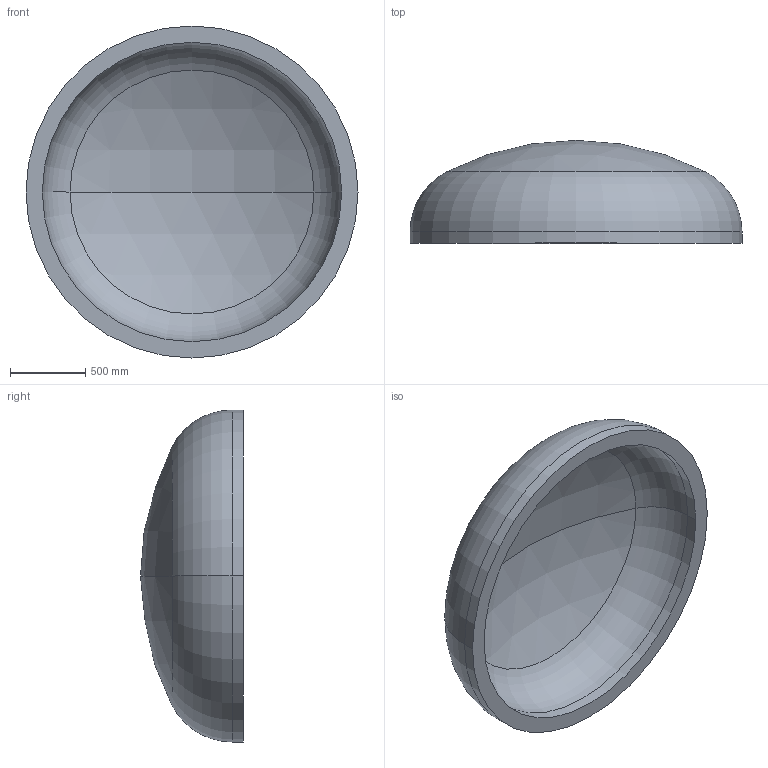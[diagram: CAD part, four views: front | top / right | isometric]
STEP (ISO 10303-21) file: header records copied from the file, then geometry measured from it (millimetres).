
FILE_DESCRIPTION (( 'STEP AP203' ), '1' );
FILE_NAME ('DIN 28013 Korbbogenform_-_Boden DIN 28013 - 2200 x 75 - I - s=108.step', '2016-07-01T14:56:38', ( '' ), ( '' ), 'SwSTEP 2.0', 'SolidWorks 2013', '' );
FILE_SCHEMA (( 'CONFIG_CONTROL_DESIGN' ));
Length unit declared in the file: millimetre
Products named in the file (1): DIN 28013 Korbbogenform_-_Boden DIN 28013 - 2200 x 75 - I - s=108
Bounding box: 2200 x 681.53 x 2200 mm (x, y, z)
Volume: 587431941.9 mm3; surface area: 11612594.1 mm2
Topology: 1 solids, 1 shells, 13 faces, 24 edges, 14 vertices
Faces by surface type: torus 4, cylinder 4, sphere 4, plane 1
Entity records: 407 total; most frequent: DIRECTION 72, CARTESIAN_POINT 52, ORIENTED_EDGE 48, AXIS2_PLACEMENT_3D 34, EDGE_CURVE 24, CIRCLE 20, EDGE_LOOP 14, VERTEX_POINT 14
